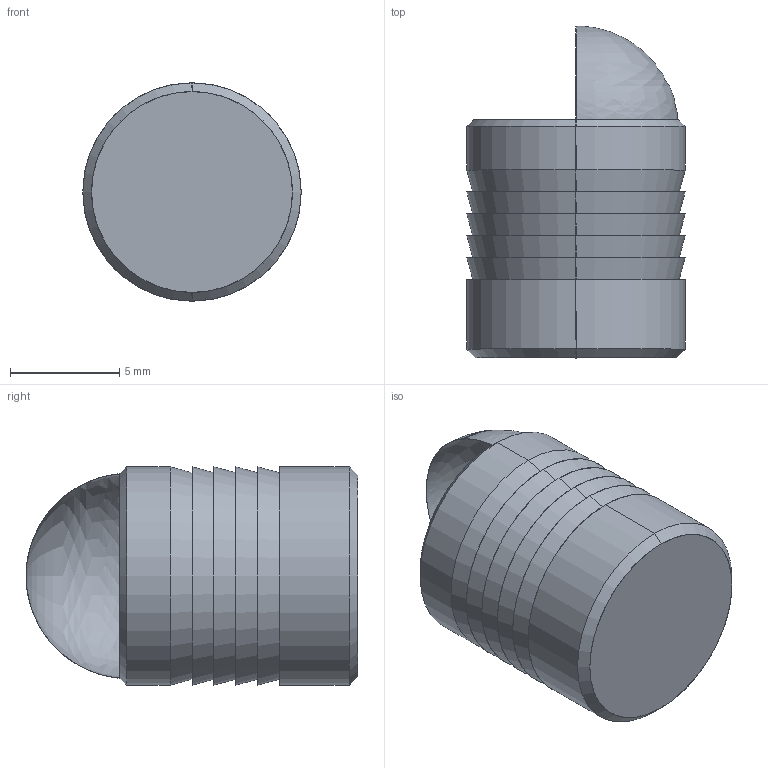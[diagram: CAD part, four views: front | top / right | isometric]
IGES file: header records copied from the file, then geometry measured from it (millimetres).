
Start section: SolidWorks IGES file using analytic representation for surfaces
Global section: file name: C:\Users\IanO\Desktop\P0190_v2\P0190_v2_20230321_IGES\P0190.100-A2-A2.igs; native system: SolidWorks 2019; preprocessor: SolidWorks 2019; author: IanO; date: 231219.161611; units: millimetre
Bounding box: 10 x 15.2 x 10 mm (x, y, z)
Surface area: 872.6 mm2 (no closed solid volume)
Topology: 0 solids, 0 shells, 28 faces, 440 edges, 437 vertices
Faces by surface type: revolution 22, bspline 6
